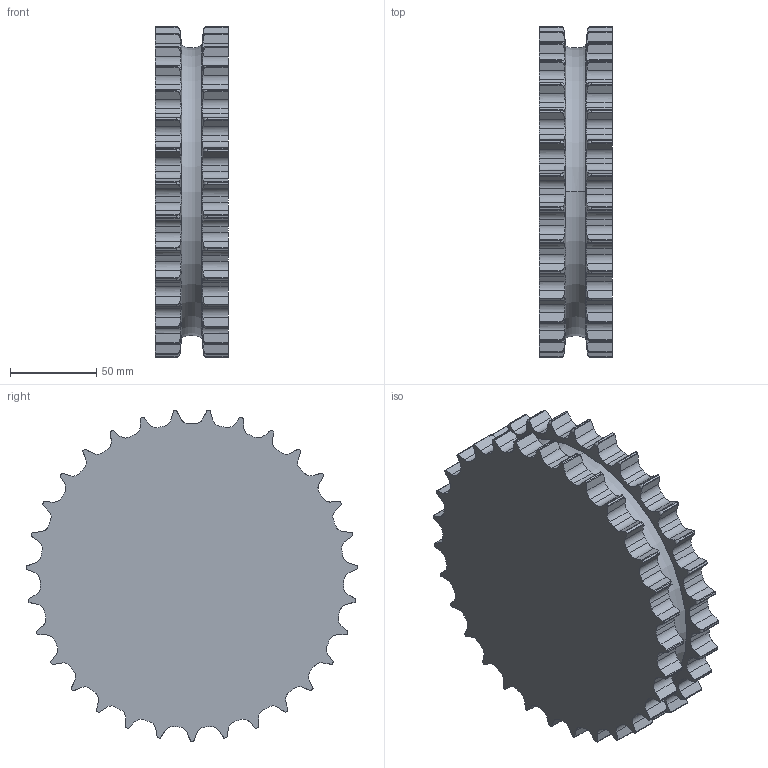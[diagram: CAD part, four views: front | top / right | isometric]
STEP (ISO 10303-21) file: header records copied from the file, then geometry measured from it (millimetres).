
FILE_DESCRIPTION((''),'2;1');
FILE_NAME('30Z31','2012-07-02T',('mth'),(''),'PRO/ENGINEER BY PARAMETRIC TECHNOLOGY CORPORATION, 2012130','PRO/ENGINEER BY PARAMETRIC TECHNOLOGY CORPORATION, 2012130','');
FILE_SCHEMA(('AUTOMOTIVE_DESIGN { 1 0 10303 214 1 1 1 1 }'));
Length unit declared in the file: millimetre
Products named in the file (1): 30Z31
Bounding box: 42.6 x 191.81 x 191.58 mm (x, y, z)
Volume: 1041553.9 mm3; surface area: 88693.6 mm2
Topology: 1 solids, 1 shells, 1249 faces, 3644 edges, 2427 vertices
Faces by surface type: plane 807, cylinder 372, torus 64, cone 6
Entity records: 58190 total; most frequent: CARTESIAN_POINT 14258, ORIENTED_EDGE 7284, DIRECTION 6214, PRESENTATION_STYLE_ASSIGNMENT 3643, STYLED_ITEM 3643, CURVE_STYLE 3642, EDGE_CURVE 3642, VECTOR 2576
